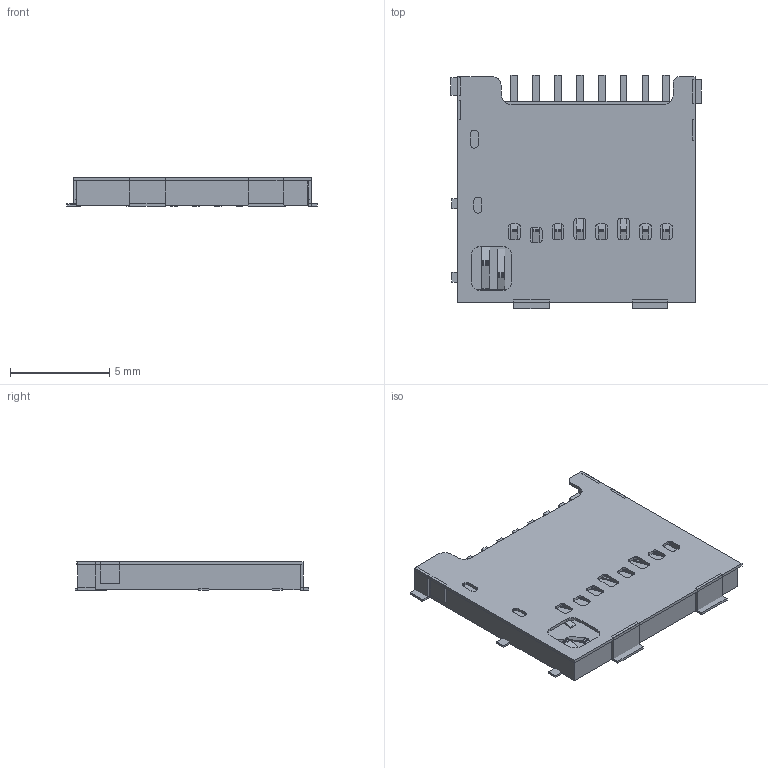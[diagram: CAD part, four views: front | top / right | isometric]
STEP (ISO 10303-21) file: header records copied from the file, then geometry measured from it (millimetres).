
FILE_DESCRIPTION(('Open CASCADE Model'),'2;1');
FILE_NAME('Open CASCADE Shape Model','2026-10-15T18:31:00',('Author'),( 'Open CASCADE'),'Open CASCADE STEP processor 7.9','Open CASCADE 7.9' ,'Unknown');
FILE_SCHEMA(('AUTOMOTIVE_DESIGN { 1 0 10303 214 1 1 1 1 }'));
Length unit declared in the file: millimetre
Products named in the file (4): microSD_HC_Molex_104031-0811; shell; housing; contacts
Assembly tree (3 placements, depth 2):
  microSD_HC_Molex_104031-0811
    shell
    housing
    contacts
Bounding box: 12.6 x 11.78 x 1.42 mm (x, y, z)
Volume: 66.2 mm3; surface area: 659 mm2
Topology: 32 solids, 32 shells, 856 faces, 2376 edges, 1584 vertices
Faces by surface type: plane 856
Entity records: 64000 total; most frequent: CARTESIAN_POINT 9572, DIRECTION 8848, LINE 7128, VECTOR 7128, ORIENTED_EDGE 4752, PCURVE 4752, DEFINITIONAL_REPRESENTATION 4752, EDGE_CURVE 2376
